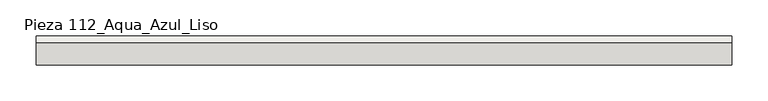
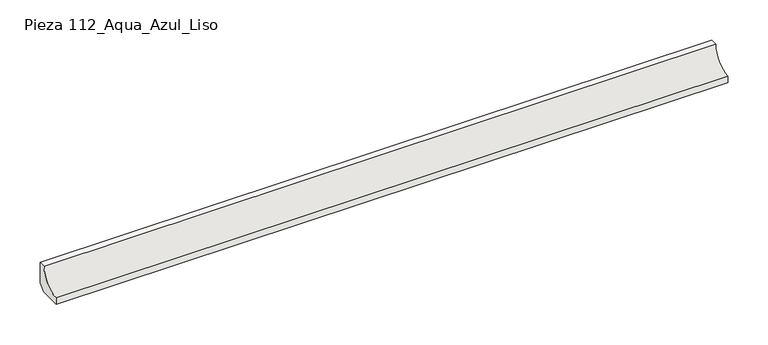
"""IFC4 building model written with IfcOpenShell, lengths in millimetres: slab geometry, ROSA GRES_112 : Pieza 112_Aqua_Azul_Liso."""

from ifc_helpers import new_model, si_unit, point, frame, frame_2d, origin, place, context, project, spatial, polyline, circle_curve, trimmed, segment, composite_curve, outline, extrude, source, transform, mapped, element, save


def pieza_112_aqua_azul_liso_7449915b(model_context):
    return source(origin(), model_context, "Body", "SweptSolid", [
        extrude(outline(composite_curve([segment(polyline([(0.0, 8.7114978), (-8.7114978, 0.0), (-40.0, 0.0), (-40.0, 9.9734114)]), True, "CONTINUOUS"), segment(trimmed(circle_curve(frame_2d((-39.9955547, 39.9955547)), 30.0221435), [point((-40.0, 9.9734114))], [point((-9.9734114, 40.0))], True, "CARTESIAN"), True, "CONTINUOUS"), segment(polyline([(-9.9734114, 40.0), (0.0, 40.0), (0.0, 8.7114978)]), True, "CONTINUOUS")], self_intersect=False)), frame((0.0, 0.0, 0.0), z_axis=(1.0, 0.0, 0.0), x_axis=(0.0, 1.0, 0.0)), (0.0, 0.0, 1.0), 963.1876539),
    ])


if __name__ == "__main__":
    model = new_model("IFC4")
    model_context = context("Model", 3, world=origin())
    ifc_project = project(units=[si_unit("LENGTHUNIT", "METRE", prefix="MILLI")], contexts=[model_context])
    site = spatial("IfcSite", under=ifc_project)
    building = spatial("IfcBuilding", under=site)
    placement = place(None, origin())
    pieza_112_aqua_azul_liso_shape = pieza_112_aqua_azul_liso_7449915b(model_context)
    element("IfcSlab", 1, ObjectType="ROSA GRES_112 : Pieza 112_Aqua_Azul_Liso", at=placement, inside=building, context=model_context, shape_type="MappedRepresentation", body=[
        mapped(pieza_112_aqua_azul_liso_shape, transform((0.0, 0.0, 0.0), x_axis=(1.0, 0.0, 0.0), y_axis=(0.0, 1.0, 0.0), z_axis=(0.0, 0.0, 1.0))),
    ])
    save(model, "model.ifc")
